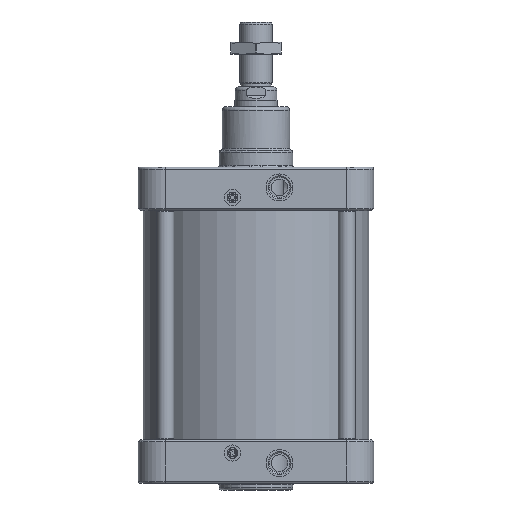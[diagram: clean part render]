
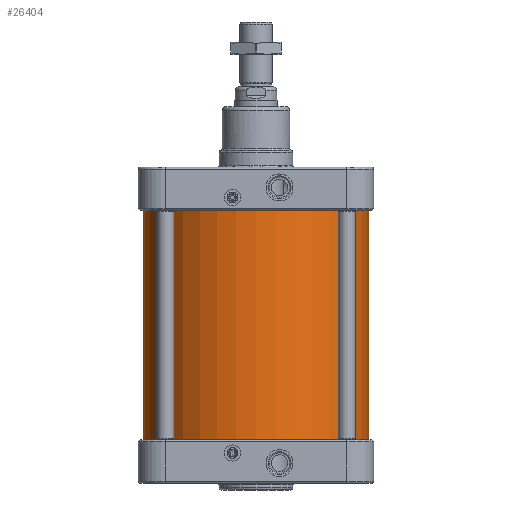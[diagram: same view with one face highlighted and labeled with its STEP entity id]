
A CAD part, front view. The second image highlights one B-rep face of the part: STEP entity #26404.
In plain terms, the highlighted cylindrical face has radius 168 mm (diameter 336 mm), a full revolution.
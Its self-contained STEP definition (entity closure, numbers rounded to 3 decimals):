
#2804=CIRCLE('',#29645,168.);
#2805=CIRCLE('',#29647,168.);
#3478=FACE_BOUND('',#7098,.T.);
#5147=FACE_OUTER_BOUND('',#7097,.T.);
#7097=EDGE_LOOP('',(#22547));
#7098=EDGE_LOOP('',(#22548));
#11979=VERTEX_POINT('',#64759);
#11980=VERTEX_POINT('',#64762);
#15511=EDGE_CURVE('',#11979,#11979,#2804,.T.);
#15512=EDGE_CURVE('',#11980,#11980,#2805,.T.);
#22547=ORIENTED_EDGE('',*,*,#15511,.T.);
#22548=ORIENTED_EDGE('',*,*,#15512,.T.);
#23070=CYLINDRICAL_SURFACE('',#29646,168.);
#26404=ADVANCED_FACE('',(#5147,#3478),#23070,.T.);
#29645=AXIS2_PLACEMENT_3D('',#64760,#36878,#36879);
#29646=AXIS2_PLACEMENT_3D('',#64761,#36880,#36881);
#29647=AXIS2_PLACEMENT_3D('',#64763,#36882,#36883);
#36878=DIRECTION('center_axis',(0.,0.,1.));
#36879=DIRECTION('ref_axis',(-1.,0.,0.));
#36880=DIRECTION('center_axis',(0.,0.,1.));
#36881=DIRECTION('ref_axis',(-1.,0.,0.));
#36882=DIRECTION('center_axis',(0.,0.,-1.));
#36883=DIRECTION('ref_axis',(-1.,0.,0.));
#64759=CARTESIAN_POINT('',(168.,0.,-170.));
#64760=CARTESIAN_POINT('Origin',(0.,0.,-170.));
#64761=CARTESIAN_POINT('Origin',(0.,0.,0.));
#64762=CARTESIAN_POINT('',(168.,0.,170.));
#64763=CARTESIAN_POINT('Origin',(0.,0.,170.));
